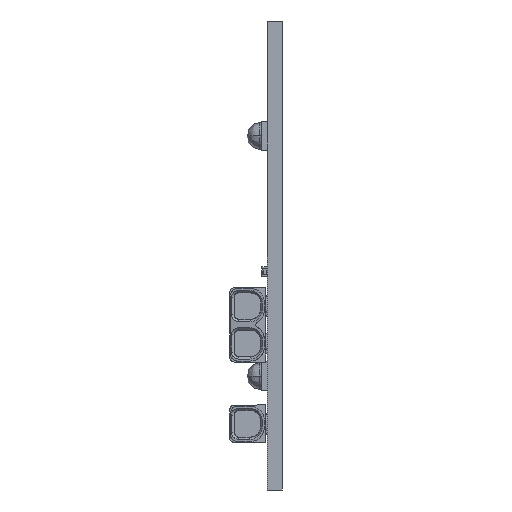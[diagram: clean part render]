
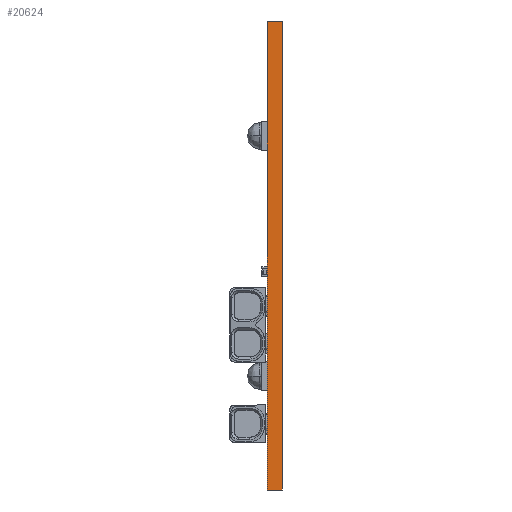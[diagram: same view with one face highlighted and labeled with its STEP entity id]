
A CAD part, left-side view. The second image highlights one B-rep face of the part: STEP entity #20624.
In plain terms, the highlighted planar face has unit normal (-1, 0, 0).
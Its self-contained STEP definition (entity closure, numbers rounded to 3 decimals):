
#2050 = CARTESIAN_POINT ( 'NONE',  ( -45.3, 1.6, 24.75 ) ) ;
#2532 = VERTEX_POINT ( 'NONE', #2050 ) ;
#2789 = VECTOR ( 'NONE', #12074, 1000. ) ;
#3274 = LINE ( 'NONE', #5840, #23302 ) ;
#3989 = DIRECTION ( 'NONE',  ( 0., -1., 0. ) ) ;
#4431 = EDGE_CURVE ( 'NONE', #2532, #21046, #3274, .T. ) ;
#5490 = LINE ( 'NONE', #6658, #2789 ) ;
#5583 = EDGE_LOOP ( 'NONE', ( #17295, #6747, #16332, #17667 ) ) ;
#5840 = CARTESIAN_POINT ( 'NONE',  ( -45.3, 1.6, 24.75 ) ) ;
#6007 = EDGE_CURVE ( 'NONE', #21046, #10738, #19270, .T. ) ;
#6658 = CARTESIAN_POINT ( 'NONE',  ( -45.3, 1.6, 0. ) ) ;
#6718 = PLANE ( 'NONE',  #19265 ) ;
#6747 = ORIENTED_EDGE ( 'NONE', *, *, #15786, .T. ) ;
#7825 = VECTOR ( 'NONE', #3989, 1000. ) ;
#10332 = CARTESIAN_POINT ( 'NONE',  ( -45.3, 0., 24.75 ) ) ;
#10354 = CARTESIAN_POINT ( 'NONE',  ( -45.3, 1.6, 24.75 ) ) ;
#10738 = VERTEX_POINT ( 'NONE', #10853 ) ;
#10853 = CARTESIAN_POINT ( 'NONE',  ( -45.3, 0., -24.75 ) ) ;
#10876 = CARTESIAN_POINT ( 'NONE',  ( -45.3, 1.6, -24.75 ) ) ;
#11692 = VECTOR ( 'NONE', #12421, 1000. ) ;
#11909 = EDGE_CURVE ( 'NONE', #2532, #21664, #5490, .T. ) ;
#12074 = DIRECTION ( 'NONE',  ( 0., 0., -1. ) ) ;
#12170 = CARTESIAN_POINT ( 'NONE',  ( -45.3, 0., 24.75 ) ) ;
#12302 = DIRECTION ( 'NONE',  ( 0., -1., 0. ) ) ;
#12421 = DIRECTION ( 'NONE',  ( 0., 0., -1. ) ) ;
#12963 = LINE ( 'NONE', #23323, #7825 ) ;
#13422 = DIRECTION ( 'NONE',  ( 0., -1., 0. ) ) ;
#15786 = EDGE_CURVE ( 'NONE', #21664, #10738, #12963, .T. ) ;
#16332 = ORIENTED_EDGE ( 'NONE', *, *, #6007, .F. ) ;
#16426 = DIRECTION ( 'NONE',  ( 1., 0., 0. ) ) ;
#17295 = ORIENTED_EDGE ( 'NONE', *, *, #11909, .T. ) ;
#17667 = ORIENTED_EDGE ( 'NONE', *, *, #4431, .F. ) ;
#19265 = AXIS2_PLACEMENT_3D ( 'NONE', #10354, #16426, #12302 ) ;
#19270 = LINE ( 'NONE', #12170, #11692 ) ;
#20624 = ADVANCED_FACE ( 'NONE', ( #22335 ), #6718, .F. ) ;
#21046 = VERTEX_POINT ( 'NONE', #10332 ) ;
#21664 = VERTEX_POINT ( 'NONE', #10876 ) ;
#22335 = FACE_OUTER_BOUND ( 'NONE', #5583, .T. ) ;
#23302 = VECTOR ( 'NONE', #13422, 1000. ) ;
#23323 = CARTESIAN_POINT ( 'NONE',  ( -45.3, 1.6, -24.75 ) ) ;
